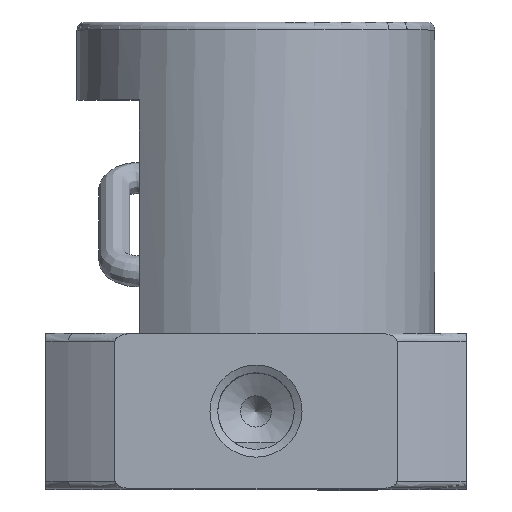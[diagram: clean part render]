
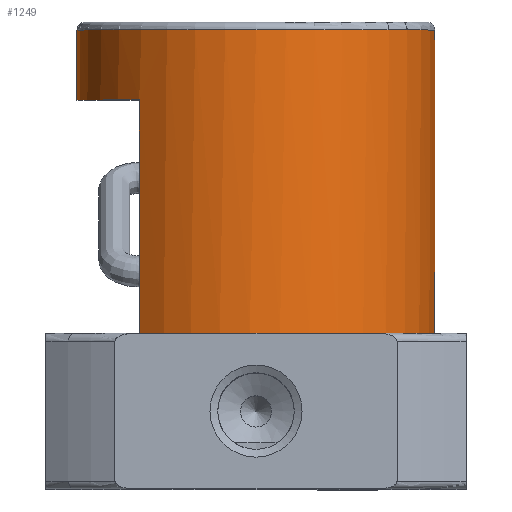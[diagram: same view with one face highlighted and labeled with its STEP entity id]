
A CAD part, top view. The second image highlights one B-rep face of the part: STEP entity #1249.
In plain terms, the highlighted cylindrical face has radius 11.5 mm (diameter 23 mm), a full revolution.
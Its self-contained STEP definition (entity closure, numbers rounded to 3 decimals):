
#71=CYLINDRICAL_SURFACE('',#1316,11.5);
#101=CIRCLE('',#1317,11.5);
#102=CIRCLE('',#1318,11.5);
#103=CIRCLE('',#1319,11.5);
#163=ORIENTED_EDGE('',*,*,#383,.T.);
#164=ORIENTED_EDGE('',*,*,#384,.F.);
#165=ORIENTED_EDGE('',*,*,#378,.T.);
#166=ORIENTED_EDGE('',*,*,#385,.T.);
#167=ORIENTED_EDGE('',*,*,#376,.T.);
#376=EDGE_CURVE('',#487,#485,#574,.F.);
#378=EDGE_CURVE('',#486,#488,#576,.T.);
#383=EDGE_CURVE('',#493,#493,#101,.F.);
#384=EDGE_CURVE('',#486,#485,#102,.T.);
#385=EDGE_CURVE('',#488,#487,#103,.F.);
#485=VERTEX_POINT('',#1713);
#486=VERTEX_POINT('',#1714);
#487=VERTEX_POINT('',#1716);
#488=VERTEX_POINT('',#1718);
#493=VERTEX_POINT('',#1730);
#574=LINE('',#1715,#596);
#576=LINE('',#1719,#598);
#596=VECTOR('',#1441,1000.);
#598=VECTOR('',#1443,1000.);
#622=EDGE_LOOP('',(#163));
#623=EDGE_LOOP('',(#164,#165,#166,#167));
#724=FACE_BOUND('',#622,.T.);
#725=FACE_BOUND('',#623,.T.);
#1249=ADVANCED_FACE('',(#724,#725),#71,.T.);
#1316=AXIS2_PLACEMENT_3D('',#1728,#1452,#1453);
#1317=AXIS2_PLACEMENT_3D('',#1729,#1454,#1455);
#1318=AXIS2_PLACEMENT_3D('',#1731,#1456,#1457);
#1319=AXIS2_PLACEMENT_3D('',#1732,#1458,#1459);
#1441=DIRECTION('',(0.,-1.,0.));
#1443=DIRECTION('',(0.,-1.,0.));
#1452=DIRECTION('',(0.,-1.,0.));
#1453=DIRECTION('',(0.,0.,-1.));
#1454=DIRECTION('',(0.,1.,0.));
#1455=DIRECTION('',(0.,0.,1.));
#1456=DIRECTION('',(0.,-1.,0.));
#1457=DIRECTION('',(0.,0.,-1.));
#1458=DIRECTION('',(0.,-1.,0.));
#1459=DIRECTION('',(0.,0.,-1.));
#1713=CARTESIAN_POINT('',(-7.5,25.,-8.718));
#1714=CARTESIAN_POINT('',(-7.5,25.,8.718));
#1715=CARTESIAN_POINT('',(-7.5,30.,-8.718));
#1716=CARTESIAN_POINT('',(-7.5,10.,-8.718));
#1718=CARTESIAN_POINT('',(-7.5,10.,8.718));
#1719=CARTESIAN_POINT('',(-7.5,30.,8.718));
#1728=CARTESIAN_POINT('',(0.,30.,0.));
#1729=CARTESIAN_POINT('',(0.,29.5,0.));
#1730=CARTESIAN_POINT('',(0.,29.5,11.5));
#1731=CARTESIAN_POINT('',(0.,25.,0.));
#1732=CARTESIAN_POINT('',(0.,10.,0.));
